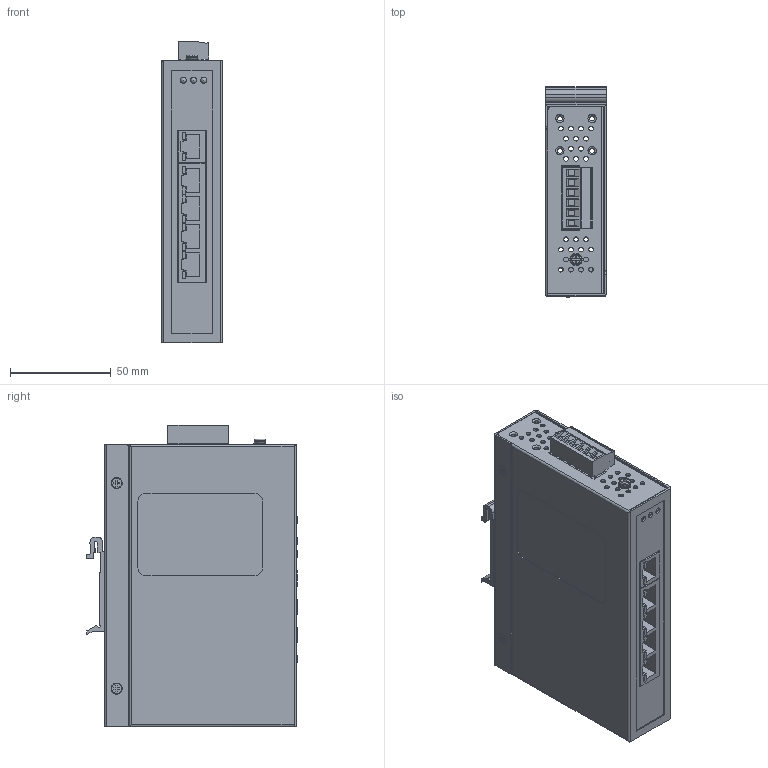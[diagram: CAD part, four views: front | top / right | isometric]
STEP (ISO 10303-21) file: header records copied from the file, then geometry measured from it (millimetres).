
FILE_DESCRIPTION(/* description */ ('STEP AP242','CAx-IF Rec.Pracs.---Representation and Presentation of Product Manufacturing Information (PMI)---4.0---2014-10-13','CAx-IF Rec.Pracs.---3D Tessellated Geometry---0.4---2014-09-14','2;1'),/* implementation_level */ '2;1');
FILE_NAME(/* name */ '67fd4688659c9904e8a98c44',/* time_stamp */ '2025-04-14T17:31:54Z',/* author */ (''),/* organization */ (''),/* preprocessor_version */ 'ST-DEVELOPER v20',/* originating_system */ 'ONSHAPE BY PTC INC, 1.196',/* authorisation */ ' ');
FILE_SCHEMA (('AP242_MANAGED_MODEL_BASED_3D_ENGINEERING_MIM_LF { 1 0 10303 442 1 1 4 }'));
Length unit declared in the file: metre
Products named in the file (27): SD-020 - Rev A - 5 Port 10/100 Switch; Connector - Single; Connector-12; Socket; DIN Clip; Rear Cover; Screw-4; Screw-2; Connector-06; Connector-04; Connector-03; Connector--13; Connector - 4 port; Screw-6; Connector-08; Screw-1; Connector-11; Connector-01; Connector-02; Connector-07; Connector-09; Screw-3; Screw-5; Connector-10; LED; Housing; Connector-05
Assembly tree (26 placements, depth 2):
  SD-020 - Rev A - 5 Port 10/100 Switch
    Connector - Single
    Connector-12
    Socket
    DIN Clip
    Rear Cover
    Screw-4
    Screw-2
    Connector-06
    Connector-04
    Connector-03
    Connector--13
    Connector - 4 port
    Screw-6
    Connector-08
    Screw-1
    Connector-11
    Connector-01
    Connector-02
    Connector-07
    Connector-09
    Screw-3
    Screw-5
    Connector-10
    LED
    Housing
    Connector-05
Bounding box: 30 x 104.3 x 149.77 mm (x, y, z)
Volume: 64455.4 mm3; surface area: 104586.5 mm2
Topology: 13 solids, 26 shells, 1514 faces, 4000 edges, 2608 vertices
Faces by surface type: plane 919, cylinder 445, torus 88, sphere 33, cone 27, bspline 2
Full cylindrical faces by diameter (mm): 0.5 x6, 1.4 x6, 1.5 x1, 2.4 x76, 2.5 x18, 2.8 x10, 2.9 x8, 3 x11, 3.5 x2, 3.783 x6, 4 x9, 4.1 x14, 5 x5, 5.4 x4, 5.5 x1
Entity records: 49303 total; most frequent: CARTESIAN_POINT 11626, DIRECTION 7735, ORIENTED_EDGE 7204, EDGE_CURVE 3670, AXIS2_PLACEMENT_3D 2633, VERTEX_POINT 2520, LINE 2469, VECTOR 2469
